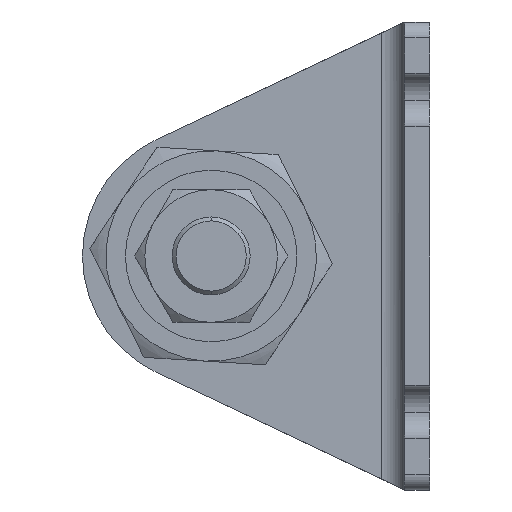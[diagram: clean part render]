
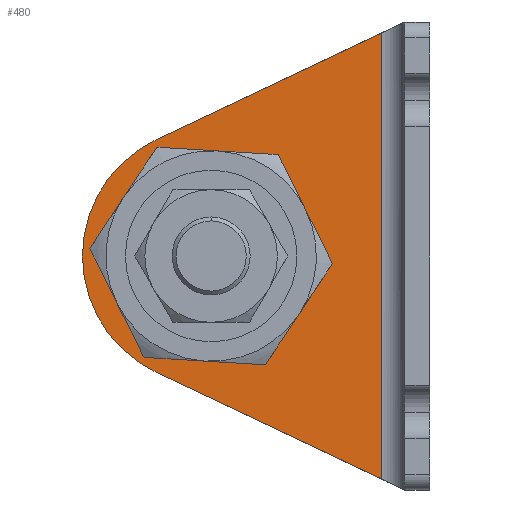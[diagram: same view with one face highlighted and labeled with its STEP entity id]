
A CAD part, left-side view. The second image highlights one B-rep face of the part: STEP entity #480.
In plain terms, the highlighted planar face has unit normal (-1, 0, 0) as drawn and (1, 0, 0) by its records, which use the part's own axes.
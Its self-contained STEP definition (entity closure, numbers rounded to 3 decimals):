
#143 = VERTEX_POINT ( 'NONE', #2968 ) ;
#163 = CIRCLE ( 'NONE', #2122, 16.5 ) ;
#175 = DIRECTION ( 'NONE',  ( 0., 1., 0. ) ) ;
#278 = LINE ( 'NONE', #3300, #2067 ) ;
#366 = VERTEX_POINT ( 'NONE', #1005 ) ;
#425 = CARTESIAN_POINT ( 'NONE',  ( 3.2, 3.2, -60. ) ) ;
#480 = ADVANCED_FACE ( 'NONE', ( #1398, #2671 ), #3443, .T. ) ;
#675 = ORIENTED_EDGE ( 'NONE', *, *, #1316, .F. ) ;
#699 = EDGE_CURVE ( 'NONE', #143, #366, #3176, .T. ) ;
#744 = CARTESIAN_POINT ( 'NONE',  ( 3.2, 3.2, -60. ) ) ;
#791 = CARTESIAN_POINT ( 'NONE',  ( 3.2, 44.5, -30. ) ) ;
#922 = VERTEX_POINT ( 'NONE', #1459 ) ;
#936 = CIRCLE ( 'NONE', #2420, 16.5 ) ;
#1005 = CARTESIAN_POINT ( 'NONE',  ( 3.2, 39.5, -30. ) ) ;
#1054 = DIRECTION ( 'NONE',  ( 0., 0.904, 0.428 ) ) ;
#1063 = AXIS2_PLACEMENT_3D ( 'NONE', #1742, #3252, #2457 ) ;
#1153 = DIRECTION ( 'NONE',  ( 1., 0., 0. ) ) ;
#1161 = VERTEX_POINT ( 'NONE', #3197 ) ;
#1247 = DIRECTION ( 'NONE',  ( 1., 0., 0. ) ) ;
#1268 = CARTESIAN_POINT ( 'NONE',  ( 3.2, 6.2, -60. ) ) ;
#1316 = EDGE_CURVE ( 'NONE', #366, #143, #2845, .T. ) ;
#1395 = VERTEX_POINT ( 'NONE', #1891 ) ;
#1398 = FACE_OUTER_BOUND ( 'NONE', #1672, .T. ) ;
#1459 = CARTESIAN_POINT ( 'NONE',  ( 3.2, 35.062, -15.087 ) ) ;
#1514 = DIRECTION ( 'NONE',  ( 0., 1., 0. ) ) ;
#1569 = DIRECTION ( 'NONE',  ( 0., 0., -1. ) ) ;
#1665 = DIRECTION ( 'NONE',  ( 0., 1., 0. ) ) ;
#1672 = EDGE_LOOP ( 'NONE', ( #3076, #2615, #2131, #3718, #1762 ) ) ;
#1703 = CARTESIAN_POINT ( 'NONE',  ( 3.2, 28., -30. ) ) ;
#1709 = DIRECTION ( 'NONE',  ( 1., 0., 0. ) ) ;
#1742 = CARTESIAN_POINT ( 'NONE',  ( 3.2, 28., -30. ) ) ;
#1762 = ORIENTED_EDGE ( 'NONE', *, *, #3611, .T. ) ;
#1830 = EDGE_CURVE ( 'NONE', #1946, #922, #278, .T. ) ;
#1891 = CARTESIAN_POINT ( 'NONE',  ( 3.2, 6.2, -58.579 ) ) ;
#1912 = VECTOR ( 'NONE', #1054, 1000. ) ;
#1946 = VERTEX_POINT ( 'NONE', #3654 ) ;
#2054 = DIRECTION ( 'NONE',  ( 0., 1., 0. ) ) ;
#2067 = VECTOR ( 'NONE', #3570, 1000. ) ;
#2122 = AXIS2_PLACEMENT_3D ( 'NONE', #1703, #1153, #2054 ) ;
#2131 = ORIENTED_EDGE ( 'NONE', *, *, #3448, .T. ) ;
#2313 = AXIS2_PLACEMENT_3D ( 'NONE', #3036, #1247, #1514 ) ;
#2386 = EDGE_LOOP ( 'NONE', ( #675, #3632 ) ) ;
#2420 = AXIS2_PLACEMENT_3D ( 'NONE', #3524, #1709, #175 ) ;
#2426 = VERTEX_POINT ( 'NONE', #791 ) ;
#2457 = DIRECTION ( 'NONE',  ( 0., 1., 0. ) ) ;
#2615 = ORIENTED_EDGE ( 'NONE', *, *, #3311, .T. ) ;
#2671 = FACE_BOUND ( 'NONE', #2386, .T. ) ;
#2845 = CIRCLE ( 'NONE', #1063, 11.5 ) ;
#2898 = EDGE_CURVE ( 'NONE', #1161, #2426, #163, .T. ) ;
#2968 = CARTESIAN_POINT ( 'NONE',  ( 3.2, 16.5, -30. ) ) ;
#3036 = CARTESIAN_POINT ( 'NONE',  ( 3.2, 28., -30. ) ) ;
#3076 = ORIENTED_EDGE ( 'NONE', *, *, #1830, .F. ) ;
#3155 = DIRECTION ( 'NONE',  ( 1., 0., 0. ) ) ;
#3176 = CIRCLE ( 'NONE', #2313, 11.5 ) ;
#3197 = CARTESIAN_POINT ( 'NONE',  ( 3.2, 35.062, -44.913 ) ) ;
#3235 = LINE ( 'NONE', #1268, #3420 ) ;
#3252 = DIRECTION ( 'NONE',  ( 1., 0., 0. ) ) ;
#3256 = AXIS2_PLACEMENT_3D ( 'NONE', #744, #3155, #1665 ) ;
#3300 = CARTESIAN_POINT ( 'NONE',  ( 3.2, 26.408, -10.99 ) ) ;
#3311 = EDGE_CURVE ( 'NONE', #1946, #1395, #3235, .T. ) ;
#3420 = VECTOR ( 'NONE', #1569, 1000. ) ;
#3443 = PLANE ( 'NONE',  #3256 ) ;
#3448 = EDGE_CURVE ( 'NONE', #1395, #1161, #3864, .T. ) ;
#3524 = CARTESIAN_POINT ( 'NONE',  ( 3.2, 28., -30. ) ) ;
#3570 = DIRECTION ( 'NONE',  ( 0., 0.904, -0.428 ) ) ;
#3611 = EDGE_CURVE ( 'NONE', #2426, #922, #936, .T. ) ;
#3632 = ORIENTED_EDGE ( 'NONE', *, *, #699, .F. ) ;
#3654 = CARTESIAN_POINT ( 'NONE',  ( 3.2, 6.2, -1.421 ) ) ;
#3718 = ORIENTED_EDGE ( 'NONE', *, *, #2898, .T. ) ;
#3864 = LINE ( 'NONE', #425, #1912 ) ;
